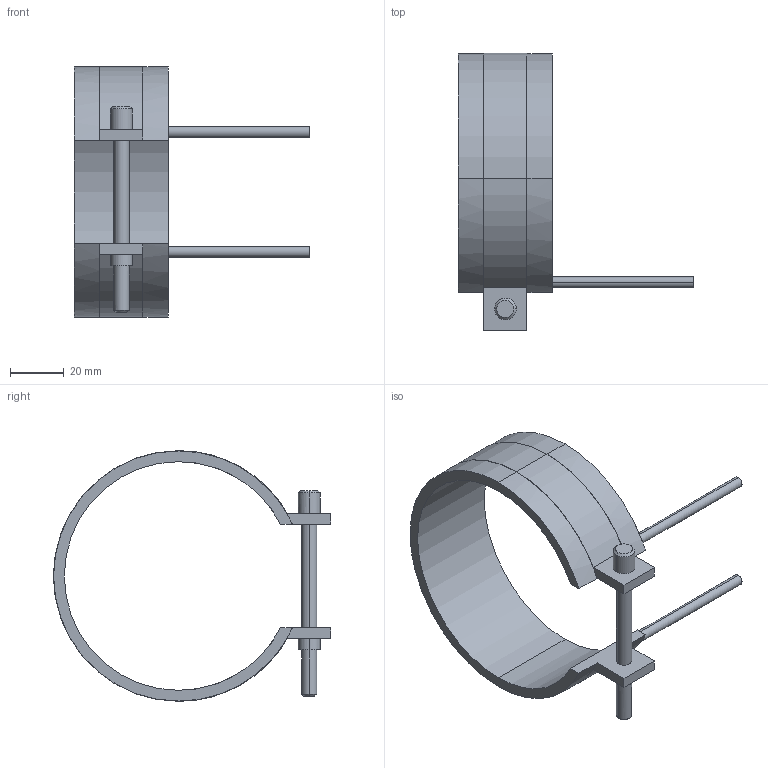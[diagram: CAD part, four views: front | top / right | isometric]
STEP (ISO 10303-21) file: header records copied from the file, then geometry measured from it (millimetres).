
FILE_DESCRIPTION(('CATIA V5 STEP Exchange'),'2;1');
FILE_NAME('C:\Users\Utente\Desktop\IO LAVORO\3D X SITO CF\X SITO\PLASTICA\RF2\14085035.stp','2021-04-06T16:17:23+00:00',('none'),('none'),'CATIA Version 5 Release 20 GA (IN-10)','CATIA V5 STEP AP203','none');
FILE_SCHEMA(('CONFIG_CONTROL_DESIGN'));
Length unit declared in the file: millimetre
Products named in the file (1): 14085035
Bounding box: 87.5 x 103.1 x 93.2 mm (x, y, z)
Volume: 39267.6 mm3; surface area: 22830.4 mm2
Topology: 1 solids, 1 shells, 45 faces, 116 edges, 76 vertices
Faces by surface type: cylinder 24, plane 17, cone 4
Entity records: 1418 total; most frequent: CARTESIAN_POINT 296, ORIENTED_EDGE 232, DIRECTION 194, EDGE_CURVE 116, AXIS2_PLACEMENT_3D 102, VERTEX_POINT 76, CIRCLE 60, VECTOR 52
